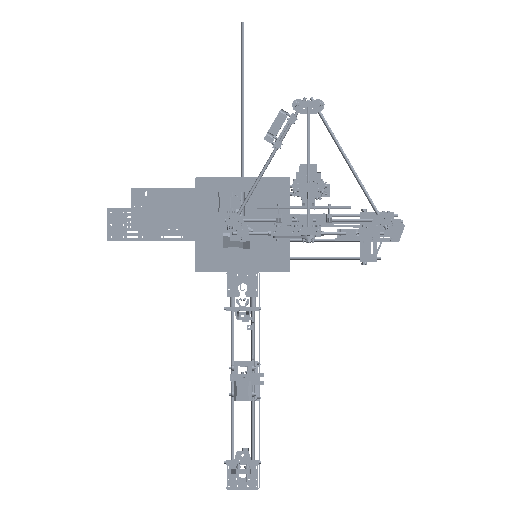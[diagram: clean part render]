
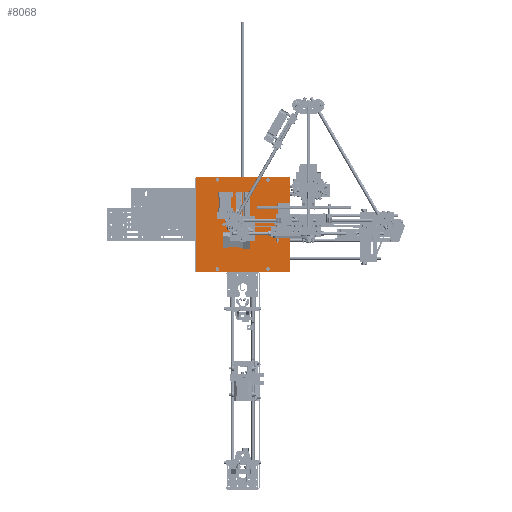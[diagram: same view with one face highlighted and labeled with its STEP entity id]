
A CAD part, top view. The second image highlights one B-rep face of the part: STEP entity #8068.
In plain terms, the highlighted planar face has unit normal (0, 0, 1).
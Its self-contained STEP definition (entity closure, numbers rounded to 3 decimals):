
#8068 = ADVANCED_FACE( '', ( #15127, #15128, #15129, #15130, #15131 ), #15132, .T. );
#15127 = FACE_BOUND( '', #22271, .T. );
#15128 = FACE_BOUND( '', #22272, .T. );
#15129 = FACE_OUTER_BOUND( '', #22273, .T. );
#15130 = FACE_BOUND( '', #22274, .T. );
#15131 = FACE_BOUND( '', #22275, .T. );
#15132 = PLANE( '', #22276 );
#22271 = EDGE_LOOP( '', ( #45676 ) );
#22272 = EDGE_LOOP( '', ( #45677 ) );
#22273 = EDGE_LOOP( '', ( #45678, #45679, #45680, #45681, #45682, #45683, #45684, #45685 ) );
#22274 = EDGE_LOOP( '', ( #45686 ) );
#22275 = EDGE_LOOP( '', ( #45687 ) );
#22276 = AXIS2_PLACEMENT_3D( '', #45688, #45689, #45690 );
#45676 = ORIENTED_EDGE( '', *, *, #54007, .T. );
#45677 = ORIENTED_EDGE( '', *, *, #54008, .T. );
#45678 = ORIENTED_EDGE( '', *, *, #54009, .F. );
#45679 = ORIENTED_EDGE( '', *, *, #54010, .T. );
#45680 = ORIENTED_EDGE( '', *, *, #54011, .F. );
#45681 = ORIENTED_EDGE( '', *, *, #54012, .T. );
#45682 = ORIENTED_EDGE( '', *, *, #54013, .F. );
#45683 = ORIENTED_EDGE( '', *, *, #54014, .T. );
#45684 = ORIENTED_EDGE( '', *, *, #54015, .F. );
#45685 = ORIENTED_EDGE( '', *, *, #54016, .F. );
#45686 = ORIENTED_EDGE( '', *, *, #54017, .T. );
#45687 = ORIENTED_EDGE( '', *, *, #54018, .T. );
#45688 = CARTESIAN_POINT( '', ( -100., -115., 6. ) );
#45689 = DIRECTION( '', ( 0., 0., 1. ) );
#45690 = DIRECTION( '', ( 1., 0., 0. ) );
#54007 = EDGE_CURVE( '', #66068, #66068, #66069, .T. );
#54008 = EDGE_CURVE( '', #66070, #66070, #66071, .T. );
#54009 = EDGE_CURVE( '', #66072, #66073, #66074, .T. );
#54010 = EDGE_CURVE( '', #66072, #66075, #66076, .T. );
#54011 = EDGE_CURVE( '', #66077, #66075, #66078, .T. );
#54012 = EDGE_CURVE( '', #66077, #66079, #66080, .T. );
#54013 = EDGE_CURVE( '', #66081, #66079, #66082, .T. );
#54014 = EDGE_CURVE( '', #66081, #66083, #66084, .T. );
#54015 = EDGE_CURVE( '', #66085, #66083, #66086, .T. );
#54016 = EDGE_CURVE( '', #66073, #66085, #66087, .T. );
#54017 = EDGE_CURVE( '', #66088, #66088, #66089, .T. );
#54018 = EDGE_CURVE( '', #66090, #66090, #66091, .T. );
#66068 = VERTEX_POINT( '', #87271 );
#66069 = CIRCLE( '', #87272, 2.2 );
#66070 = VERTEX_POINT( '', #87273 );
#66071 = CIRCLE( '', #87274, 2.2 );
#66072 = VERTEX_POINT( '', #87275 );
#66073 = VERTEX_POINT( '', #87276 );
#66074 = LINE( '', #87277, #87278 );
#66075 = VERTEX_POINT( '', #87279 );
#66076 = LINE( '', #87280, #87281 );
#66077 = VERTEX_POINT( '', #87282 );
#66078 = LINE( '', #87283, #87284 );
#66079 = VERTEX_POINT( '', #87285 );
#66080 = LINE( '', #87286, #87287 );
#66081 = VERTEX_POINT( '', #87288 );
#66082 = LINE( '', #87289, #87290 );
#66083 = VERTEX_POINT( '', #87291 );
#66084 = LINE( '', #87292, #87293 );
#66085 = VERTEX_POINT( '', #87294 );
#66086 = LINE( '', #87295, #87296 );
#66087 = LINE( '', #87297, #87298 );
#66088 = VERTEX_POINT( '', #87299 );
#66089 = CIRCLE( '', #87300, 2.2 );
#66090 = VERTEX_POINT( '', #87301 );
#66091 = CIRCLE( '', #87302, 2.2 );
#87271 = CARTESIAN_POINT( '', ( -111.8, 62., 6. ) );
#87272 = AXIS2_PLACEMENT_3D( '', #96973, #96974, #96975 );
#87273 = CARTESIAN_POINT( '', ( 106.4, -62., 6. ) );
#87274 = AXIS2_PLACEMENT_3D( '', #96976, #96977, #96978 );
#87275 = CARTESIAN_POINT( '', ( -54., 115., 6. ) );
#87276 = CARTESIAN_POINT( '', ( -54., 85., 6. ) );
#87277 = CARTESIAN_POINT( '', ( -54., 115., 6. ) );
#87278 = VECTOR( '', #96979, 1000. );
#87279 = CARTESIAN_POINT( '', ( -116., 115., 6. ) );
#87280 = CARTESIAN_POINT( '', ( 100., 115., 6. ) );
#87281 = VECTOR( '', #96980, 1000. );
#87282 = CARTESIAN_POINT( '', ( -116., -115., 6. ) );
#87283 = CARTESIAN_POINT( '', ( -116., 115., 6. ) );
#87284 = VECTOR( '', #96981, 1000. );
#87285 = CARTESIAN_POINT( '', ( 116., -115., 6. ) );
#87286 = CARTESIAN_POINT( '', ( -100., -115., 6. ) );
#87287 = VECTOR( '', #96982, 1000. );
#87288 = CARTESIAN_POINT( '', ( 116., 115., 6. ) );
#87289 = CARTESIAN_POINT( '', ( 116., 115., 6. ) );
#87290 = VECTOR( '', #96983, 1000. );
#87291 = CARTESIAN_POINT( '', ( -14., 115., 6. ) );
#87292 = CARTESIAN_POINT( '', ( 100., 115., 6. ) );
#87293 = VECTOR( '', #96984, 1000. );
#87294 = CARTESIAN_POINT( '', ( -14., 85., 6. ) );
#87295 = CARTESIAN_POINT( '', ( -14., 85., 6. ) );
#87296 = VECTOR( '', #96985, 1000. );
#87297 = CARTESIAN_POINT( '', ( -54., 85., 6. ) );
#87298 = VECTOR( '', #96986, 1000. );
#87299 = CARTESIAN_POINT( '', ( 106.4, 62., 6. ) );
#87300 = AXIS2_PLACEMENT_3D( '', #96987, #96988, #96989 );
#87301 = CARTESIAN_POINT( '', ( -111.8, -62., 6. ) );
#87302 = AXIS2_PLACEMENT_3D( '', #96990, #96991, #96992 );
#96973 = CARTESIAN_POINT( '', ( -109.6, 62., 6. ) );
#96974 = DIRECTION( '', ( 0., 0., -1. ) );
#96975 = DIRECTION( '', ( -1., 0., 0. ) );
#96976 = CARTESIAN_POINT( '', ( 108.6, -62., 6. ) );
#96977 = DIRECTION( '', ( 0., 0., -1. ) );
#96978 = DIRECTION( '', ( -1., 0., 0. ) );
#96979 = DIRECTION( '', ( 0., -1., 0. ) );
#96980 = DIRECTION( '', ( -1., 0., 0. ) );
#96981 = DIRECTION( '', ( 0., 1., 0. ) );
#96982 = DIRECTION( '', ( 1., 0., 0. ) );
#96983 = DIRECTION( '', ( 0., -1., 0. ) );
#96984 = DIRECTION( '', ( -1., 0., 0. ) );
#96985 = DIRECTION( '', ( 0., 1., 0. ) );
#96986 = DIRECTION( '', ( 1., 0., 0. ) );
#96987 = CARTESIAN_POINT( '', ( 108.6, 62., 6. ) );
#96988 = DIRECTION( '', ( 0., 0., -1. ) );
#96989 = DIRECTION( '', ( -1., 0., 0. ) );
#96990 = CARTESIAN_POINT( '', ( -109.6, -62., 6. ) );
#96991 = DIRECTION( '', ( 0., 0., -1. ) );
#96992 = DIRECTION( '', ( -1., 0., 0. ) );
